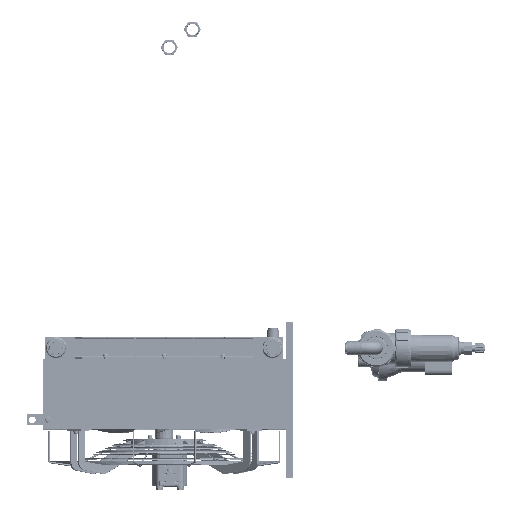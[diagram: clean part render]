
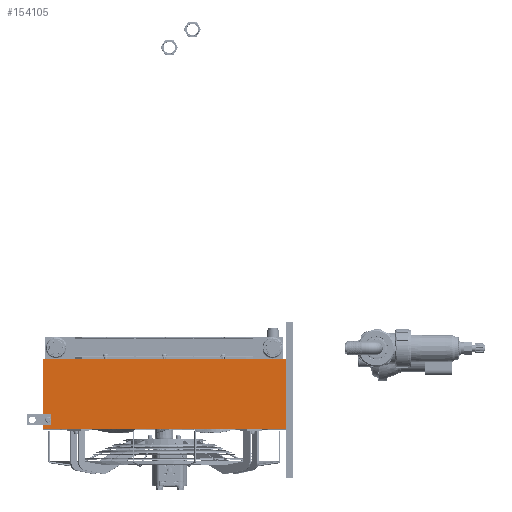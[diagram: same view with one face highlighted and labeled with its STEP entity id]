
A CAD part, top view. The second image highlights one B-rep face of the part: STEP entity #154105.
In plain terms, the highlighted planar face has unit normal (0, 0, 1) as drawn and (-1, 0, 0) by its records, which use the part's own axes.
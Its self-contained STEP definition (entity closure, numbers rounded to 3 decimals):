
#1377=FACE_BOUND('',#31357,.T.);
#1378=FACE_BOUND('',#31358,.T.);
#1379=FACE_BOUND('',#31359,.T.);
#6047=CIRCLE('',#163309,0.5);
#6049=CIRCLE('',#163312,0.5);
#6079=CIRCLE('',#163358,3.4);
#22756=FACE_OUTER_BOUND('',#31356,.T.);
#31356=EDGE_LOOP('',(#105493,#105494,#105495,#105496));
#31357=EDGE_LOOP('',(#105497));
#31358=EDGE_LOOP('',(#105498));
#31359=EDGE_LOOP('',(#105499));
#40972=LINE('',#219839,#51021);
#40985=LINE('',#219870,#51034);
#40986=LINE('',#219871,#51035);
#40987=LINE('',#219872,#51036);
#51021=VECTOR('',#179023,1000.);
#51034=VECTOR('',#179044,1000.);
#51035=VECTOR('',#179045,1000.);
#51036=VECTOR('',#179046,1000.);
#66314=VERTEX_POINT('',#219544);
#66316=VERTEX_POINT('',#219550);
#66342=VERTEX_POINT('',#219634);
#66413=VERTEX_POINT('',#219837);
#66414=VERTEX_POINT('',#219838);
#66427=VERTEX_POINT('',#219868);
#66428=VERTEX_POINT('',#219869);
#81525=EDGE_CURVE('',#66314,#66314,#6047,.T.);
#81528=EDGE_CURVE('',#66316,#66316,#6049,.T.);
#81570=EDGE_CURVE('',#66342,#66342,#6079,.T.);
#81670=EDGE_CURVE('',#66413,#66414,#40972,.T.);
#81685=EDGE_CURVE('',#66427,#66428,#40985,.T.);
#81686=EDGE_CURVE('',#66414,#66428,#40986,.T.);
#81687=EDGE_CURVE('',#66413,#66427,#40987,.T.);
#105493=ORIENTED_EDGE('',*,*,#81685,.T.);
#105494=ORIENTED_EDGE('',*,*,#81686,.F.);
#105495=ORIENTED_EDGE('',*,*,#81670,.F.);
#105496=ORIENTED_EDGE('',*,*,#81687,.T.);
#105497=ORIENTED_EDGE('',*,*,#81570,.F.);
#105498=ORIENTED_EDGE('',*,*,#81525,.F.);
#105499=ORIENTED_EDGE('',*,*,#81528,.F.);
#150624=PLANE('',#163453);
#154105=ADVANCED_FACE('',(#22756,#1377,#1378,#1379),#150624,.F.);
#163309=AXIS2_PLACEMENT_3D('',#219546,#178689,#178690);
#163312=AXIS2_PLACEMENT_3D('',#219552,#178696,#178697);
#163358=AXIS2_PLACEMENT_3D('',#219636,#178800,#178801);
#163453=AXIS2_PLACEMENT_3D('',#219867,#179042,#179043);
#178689=DIRECTION('center_axis',(-1.,0.,0.));
#178690=DIRECTION('ref_axis',(0.,-1.,0.));
#178696=DIRECTION('center_axis',(-1.,0.,0.));
#178697=DIRECTION('ref_axis',(0.,-1.,0.));
#178800=DIRECTION('center_axis',(-1.,0.,0.));
#178801=DIRECTION('ref_axis',(0.,0.,1.));
#179023=DIRECTION('',(0.,-1.,0.));
#179042=DIRECTION('center_axis',(1.,0.,0.));
#179043=DIRECTION('ref_axis',(0.,1.,0.));
#179044=DIRECTION('',(0.,-1.,0.));
#179045=DIRECTION('',(0.,0.,-1.));
#179046=DIRECTION('',(0.,0.,-1.));
#219544=CARTESIAN_POINT('',(-352.5,-272.,175.));
#219546=CARTESIAN_POINT('Origin',(-352.5,-272.5,175.));
#219550=CARTESIAN_POINT('',(-352.5,-272.,30.));
#219552=CARTESIAN_POINT('Origin',(-352.5,-272.5,30.));
#219634=CARTESIAN_POINT('',(-352.5,337.5,24.6));
#219636=CARTESIAN_POINT('Origin',(-352.5,337.5,28.));
#219837=CARTESIAN_POINT('',(-352.5,352.5,205.));
#219838=CARTESIAN_POINT('',(-352.5,-352.5,205.));
#219839=CARTESIAN_POINT('',(-352.5,352.5,205.));
#219867=CARTESIAN_POINT('Origin',(-352.5,352.5,205.));
#219868=CARTESIAN_POINT('',(-352.5,352.5,0.));
#219869=CARTESIAN_POINT('',(-352.5,-352.5,0.));
#219870=CARTESIAN_POINT('',(-352.5,352.5,0.));
#219871=CARTESIAN_POINT('',(-352.5,-352.5,205.));
#219872=CARTESIAN_POINT('',(-352.5,352.5,205.));
